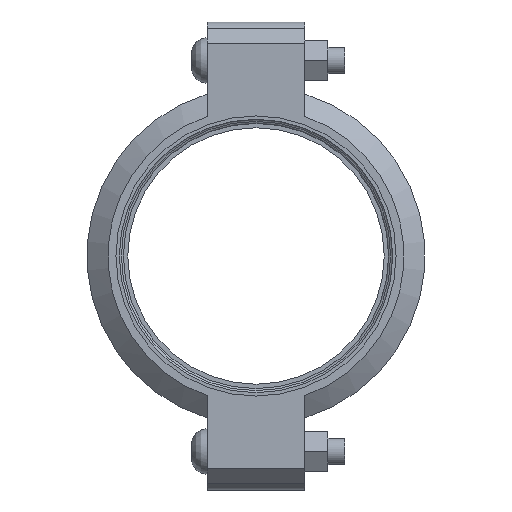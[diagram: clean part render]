
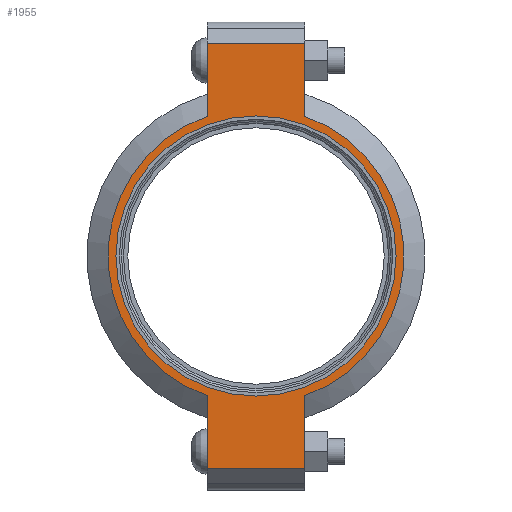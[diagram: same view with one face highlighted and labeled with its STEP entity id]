
A CAD part, left-side view. The second image highlights one B-rep face of the part: STEP entity #1955.
In plain terms, the highlighted planar face has unit normal (-1, 0, 0) as drawn and (0, 0, 1) by its records, which use the part's own axes.
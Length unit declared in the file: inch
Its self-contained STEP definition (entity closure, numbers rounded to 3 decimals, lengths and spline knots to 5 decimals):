
#144=LINE('',#3465,#241);
#152=LINE('',#3501,#249);
#159=LINE('',#3522,#256);
#168=LINE('',#3554,#265);
#169=LINE('',#3558,#266);
#170=LINE('',#3560,#267);
#241=VECTOR('',#2825,0.3937);
#249=VECTOR('',#2841,0.3937);
#256=VECTOR('',#2860,0.3937);
#265=VECTOR('',#2885,0.3937);
#266=VECTOR('',#2890,0.3937);
#267=VECTOR('',#2891,0.3937);
#323=FACE_BOUND('',#573,.T.);
#367=PLANE('',#2294);
#455=FACE_OUTER_BOUND('',#572,.T.);
#572=EDGE_LOOP('',(#1676,#1677,#1678,#1679,#1680,#1681,#1682,#1683));
#573=EDGE_LOOP('',(#1684));
#745=CIRCLE('',#2295,3.5);
#746=CIRCLE('',#2296,3.5);
#747=CIRCLE('',#2297,3.3125);
#909=VERTEX_POINT('',#3462);
#910=VERTEX_POINT('',#3464);
#921=VERTEX_POINT('',#3496);
#922=VERTEX_POINT('',#3500);
#929=VERTEX_POINT('',#3519);
#930=VERTEX_POINT('',#3521);
#940=VERTEX_POINT('',#3557);
#941=VERTEX_POINT('',#3559);
#942=VERTEX_POINT('',#3562);
#1154=EDGE_CURVE('',#910,#909,#144,.T.);
#1168=EDGE_CURVE('',#922,#921,#152,.T.);
#1178=EDGE_CURVE('',#930,#929,#159,.T.);
#1193=EDGE_CURVE('',#922,#909,#168,.T.);
#1194=EDGE_CURVE('',#921,#930,#745,.T.);
#1195=EDGE_CURVE('',#940,#929,#169,.T.);
#1196=EDGE_CURVE('',#940,#941,#170,.T.);
#1197=EDGE_CURVE('',#941,#910,#746,.T.);
#1198=EDGE_CURVE('',#942,#942,#747,.T.);
#1676=ORIENTED_EDGE('',*,*,#1193,.F.);
#1677=ORIENTED_EDGE('',*,*,#1168,.T.);
#1678=ORIENTED_EDGE('',*,*,#1194,.T.);
#1679=ORIENTED_EDGE('',*,*,#1178,.T.);
#1680=ORIENTED_EDGE('',*,*,#1195,.F.);
#1681=ORIENTED_EDGE('',*,*,#1196,.T.);
#1682=ORIENTED_EDGE('',*,*,#1197,.T.);
#1683=ORIENTED_EDGE('',*,*,#1154,.T.);
#1684=ORIENTED_EDGE('',*,*,#1198,.T.);
#1955=ADVANCED_FACE('',(#455,#323),#367,.T.);
#2294=AXIS2_PLACEMENT_3D('',#3555,#2886,#2887);
#2295=AXIS2_PLACEMENT_3D('',#3556,#2888,#2889);
#2296=AXIS2_PLACEMENT_3D('',#3561,#2892,#2893);
#2297=AXIS2_PLACEMENT_3D('',#3563,#2894,#2895);
#2825=DIRECTION('',(1.,0.,0.));
#2841=DIRECTION('',(-1.,0.,0.));
#2860=DIRECTION('',(-1.,0.,0.));
#2885=DIRECTION('',(0.,-1.,0.));
#2886=DIRECTION('center_axis',(0.,0.,1.));
#2887=DIRECTION('ref_axis',(-1.,0.,0.));
#2888=DIRECTION('center_axis',(0.,0.,1.));
#2889=DIRECTION('ref_axis',(1.,0.,0.));
#2890=DIRECTION('',(0.,1.,0.));
#2891=DIRECTION('',(1.,0.,0.));
#2892=DIRECTION('center_axis',(0.,0.,1.));
#2893=DIRECTION('ref_axis',(1.,0.,0.));
#2894=DIRECTION('center_axis',(0.,0.,-1.));
#2895=DIRECTION('ref_axis',(1.,0.,0.));
#3462=CARTESIAN_POINT('',(5.035,-1.156,1.065));
#3464=CARTESIAN_POINT('',(3.30358,-1.156,1.065));
#3465=CARTESIAN_POINT('',(5.535,-1.156,1.065));
#3496=CARTESIAN_POINT('',(3.30358,1.156,1.065));
#3500=CARTESIAN_POINT('',(5.035,1.156,1.065));
#3501=CARTESIAN_POINT('',(-5.535,1.156,1.065));
#3519=CARTESIAN_POINT('',(-5.035,1.156,1.065));
#3521=CARTESIAN_POINT('',(-3.30358,1.156,1.065));
#3522=CARTESIAN_POINT('',(-5.535,1.156,1.065));
#3554=CARTESIAN_POINT('',(5.035,-0.578,1.065));
#3555=CARTESIAN_POINT('Origin',(0.,0.,
1.065));
#3556=CARTESIAN_POINT('Origin',(0.,0.,1.065));
#3557=CARTESIAN_POINT('',(-5.035,-1.156,1.065));
#3558=CARTESIAN_POINT('',(-5.035,0.578,1.065));
#3559=CARTESIAN_POINT('',(-3.30358,-1.156,1.065));
#3560=CARTESIAN_POINT('',(5.535,-1.156,1.065));
#3561=CARTESIAN_POINT('Origin',(0.,0.,1.065));
#3562=CARTESIAN_POINT('',(-3.3125,0.,1.065));
#3563=CARTESIAN_POINT('Origin',(0.,0.,1.065));
